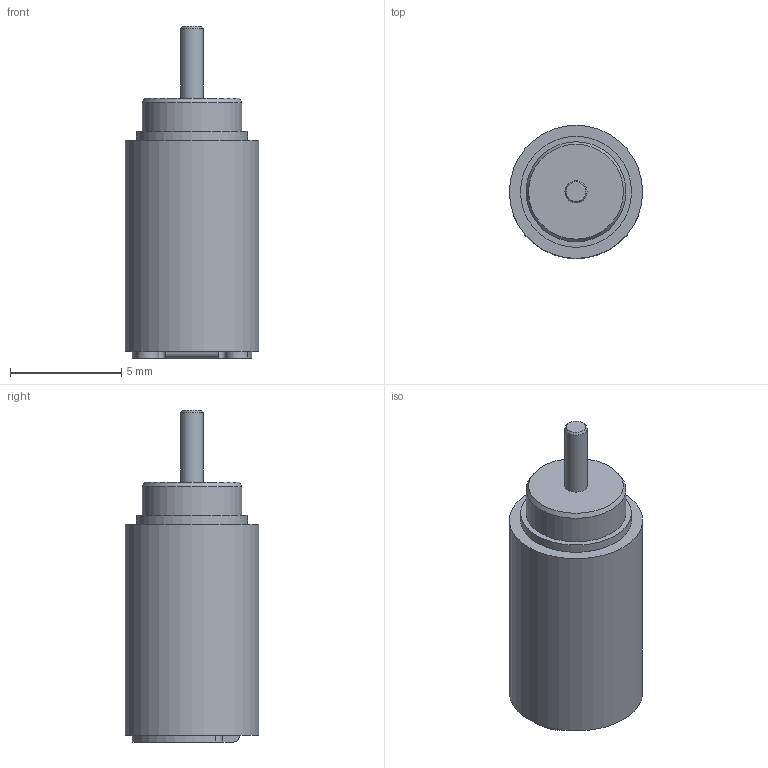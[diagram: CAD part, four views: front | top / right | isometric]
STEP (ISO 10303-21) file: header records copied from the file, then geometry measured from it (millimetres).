
FILE_DESCRIPTION(/* description */ (''),/* implementation_level */ '2;1');
FILE_NAME(/* name */ 'DM0620_11.stp',/* time_stamp */ '2018-11-27T15:40:50+01:00',/* author */ ('DR. FRITZ FAULHABER GmbH & Co. KG'),/* organization */ ('DR. FRITZ FAULHABER GmbH & Co. KG'),/* preprocessor_version */ 'ST-DEVELOPER v16.7',/* originating_system */ 'SIEMENS PLM Software NX 12.0',/* authorisation */ '');
FILE_SCHEMA (('AUTOMOTIVE_DESIGN { 1 0 10303 214 3 1 1 1 }'));
Length unit declared in the file: millimetre
Products named in the file (1): Alle_Motoren
Bounding box: 6 x 6 x 14.95 mm (x, y, z)
Volume: 307.9 mm3; surface area: 279.4 mm2
Topology: 1 solids, 1 shells, 136 faces, 331 edges, 220 vertices
Faces by surface type: plane 99, cylinder 19, extrusion 16, cone 2
Full cylindrical faces by diameter (mm): 1 x1, 1.6 x1, 4.5 x1, 5 x1, 6 x1
Entity records: 4376 total; most frequent: CARTESIAN_POINT 1449, ORIENTED_EDGE 648, DIRECTION 462, EDGE_CURVE 324, VERTEX_POINT 220, B_SPLINE_CURVE_WITH_KNOTS 176, EDGE_LOOP 166, AXIS2_PLACEMENT_3D 161
